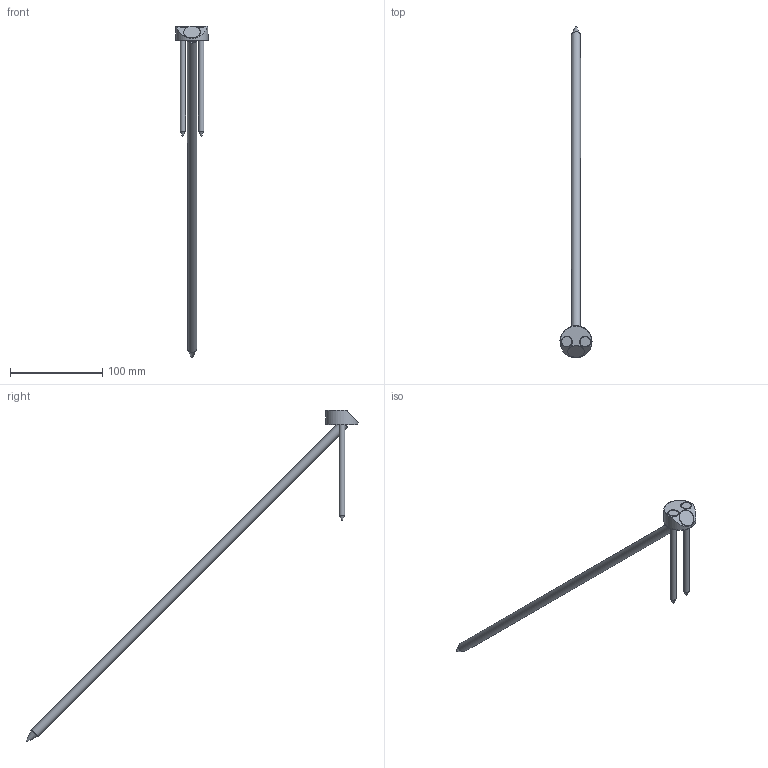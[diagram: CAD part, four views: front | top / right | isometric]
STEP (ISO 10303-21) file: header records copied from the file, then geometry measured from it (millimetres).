
FILE_DESCRIPTION(/* description */ ('Unknown'),/* implementation_level */ '2;1');
FILE_NAME(/* name */ 'T-Joint_D35_W45_SK-10x500_2xSK-6x120',/* time_stamp */ '2020-07-13T10:20:25+02:00',/* author */ ('Unknown'),/* organization */ ('Unknown'),/* preprocessor_version */ 'ST-DEVELOPER v16.7',/* originating_system */ 'DEX',/* authorisation */ $);
FILE_SCHEMA (('AUTOMOTIVE_DESIGN {1 0 10303 214 3 1 1}'));
Length unit declared in the file: millimetre
Products named in the file (4): T-Joint_D35_W45_SK-10x500_2xSK-6x120; T-Joint_D35_W45; SK Schraube 6x120_ohne_Gewinde; SK Schraube 10x500_ohne_Gewinde_22042020
Assembly tree (4 placements, depth 2):
  T-Joint_D35_W45_SK-10x500_2xSK-6x120
    T-Joint_D35_W45
    SK Schraube 6x120_ohne_Gewinde  x2
    SK Schraube 10x500_ohne_Gewinde_22042020
Bounding box: 34.78 x 360.54 x 360.26 mm (x, y, z)
Volume: 56215.6 mm3; surface area: 24721.1 mm2
Topology: 4 solids, 4 shells, 35 faces, 73 edges, 45 vertices
Faces by surface type: cylinder 12, plane 11, cone 9, torus 3
Full cylindrical faces by diameter (mm): 6 x2, 6.2 x2, 6.3 x1, 10 x2, 11 x2, 12.5 x1, 18 x1, 34.8 x1
Entity records: 771 total; most frequent: DIRECTION 130, CARTESIAN_POINT 126, ORIENTED_EDGE 76, AXIS2_PLACEMENT_3D 63, EDGE_LOOP 53, FACE_BOUND 53, EDGE_CURVE 38, VERTEX_POINT 33
